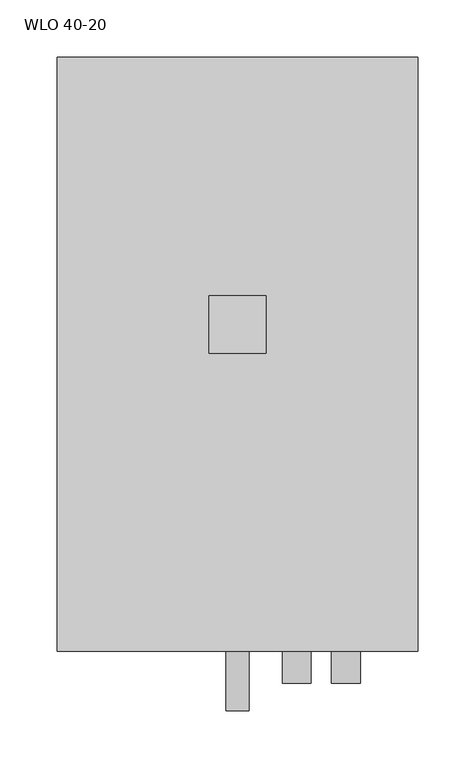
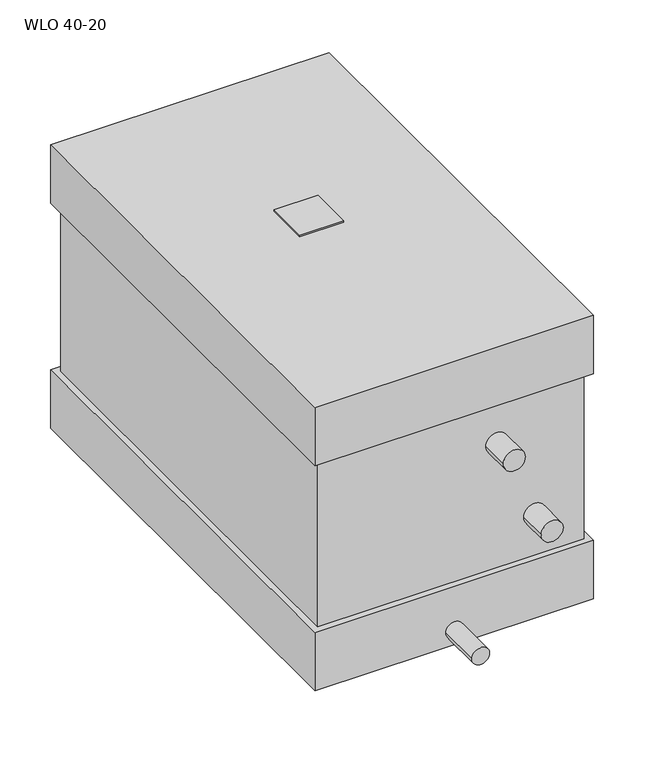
"""IFC4 building model written with IfcOpenShell, lengths in millimetres: proxy geometry, KORF_Воздухоохладитель_Водяной_WLO_Левый : WLO 40-20."""

from ifc_helpers import new_model, si_unit, point, frame, frame_2d, origin, place, context, project, spatial, polyline, circle_curve, trimmed, segment, composite_curve, outline, extrude, faceted_brep, source, transform, mapped, element, save


def wlo_40_20_65b91585(model_context):
    return source(origin(), model_context, "Body", "SolidModel", [
        extrude(outline(polyline([(133.0, -25.0), (133.0, 25.0), (183.0, 25.0), (183.0, -25.0), (133.0, -25.0)])), frame((0.0, 0.0, 170.0), z_axis=(0.0, 0.0, 1.0), x_axis=(1.0, 0.0, 0.0)), (0.0, 0.0, 1.0), 2.0),
        faceted_brep([(316.0, -286.0, 170.0), (316.0, -286.0, 100.0), (316.0, 234.0, 100.0), (316.0, 234.0, 170.0), (316.0, -286.0, -100.0), (316.0, -286.0, -170.0), (316.0, 234.0, -170.0), (316.0, 234.0, -100.0), (0.0, -286.0, 170.0), (0.0, 234.0, 170.0), (0.0, 234.0, 100.0), (0.0, -286.0, 100.0), (0.0, -286.0, -100.0), (0.0, 234.0, -100.0), (0.0, 234.0, -170.0), (0.0, -286.0, -170.0), (7.0, -279.0, 100.0), (309.0, -279.0, 100.0), (309.0, -200.0, 100.0), (309.0, 200.0, 100.0), (309.0, 227.0, 100.0), (7.0, 227.0, 100.0), (7.0, 200.0, 100.0), (7.0, -200.0, 100.0), (309.0, -279.0, -100.0), (7.0, -279.0, -100.0), (7.0, -200.0, -100.0), (7.0, 200.0, -100.0), (7.0, 227.0, -100.0), (309.0, 227.0, -100.0), (309.0, 200.0, -100.0), (309.0, -200.0, -100.0)], [[[0, 1, 2, 3]], [[4, 5, 6, 7]], [[8, 9, 10, 11]], [[12, 13, 14, 15]], [[1, 0, 8, 11]], [[2, 1, 11, 10], [16, 17, 18, 19, 20, 21, 22, 23]], [[3, 2, 10, 9]], [[0, 3, 9, 8]], [[5, 4, 12, 15]], [[6, 5, 15, 14]], [[7, 6, 14, 13]], [[4, 7, 13, 12], [24, 25, 26, 27, 28, 29, 30, 31]], [[17, 24, 31, 30, 29, 20, 19, 18]], [[21, 28, 27, 26, 25, 16, 23, 22]], [[24, 17, 16, 25]], [[20, 29, 28, 21]]]),
        extrude(outline(composite_curve([segment(trimmed(circle_curve(frame_2d((50.0, 210.0)), 12.5), [point((50.0, 197.5))], [point((50.0, 222.5))], False, "CARTESIAN"), True, "CONTINUOUS"), segment(trimmed(circle_curve(frame_2d((50.0, 210.0)), 12.5), [point((50.0, 222.5))], [point((50.0, 197.5))], False, "CARTESIAN"), True, "CONTINUOUS")], self_intersect=False)), frame((0.0, -314.0, 0.0), z_axis=(0.0, 1.0, 0.0), x_axis=(0.0, 0.0, 1.0)), (0.0, 0.0, 1.0), 35.0),
        extrude(outline(composite_curve([segment(trimmed(circle_curve(frame_2d((-50.0, 253.0)), 12.5), [point((-50.0, 240.5))], [point((-50.0, 265.5))], False, "CARTESIAN"), True, "CONTINUOUS"), segment(trimmed(circle_curve(frame_2d((-50.0, 253.0)), 12.5), [point((-50.0, 265.5))], [point((-50.0, 240.5))], False, "CARTESIAN"), True, "CONTINUOUS")], self_intersect=False)), frame((0.0, -314.0, 0.0), z_axis=(0.0, 1.0, 0.0), x_axis=(0.0, 0.0, 1.0)), (0.0, 0.0, 1.0), 35.0),
        extrude(outline(composite_curve([segment(trimmed(circle_curve(frame_2d((-152.0, 158.0)), 10.0), [point((-152.0, 148.0))], [point((-152.0, 168.0))], False, "CARTESIAN"), True, "CONTINUOUS"), segment(trimmed(circle_curve(frame_2d((-152.0, 158.0)), 10.0), [point((-152.0, 168.0))], [point((-152.0, 148.0))], False, "CARTESIAN"), True, "CONTINUOUS")], self_intersect=False)), frame((0.0, -338.0, 0.0), z_axis=(0.0, 1.0, 0.0), x_axis=(0.0, 0.0, 1.0)), (0.0, 0.0, 1.0), 52.0),
    ])


if __name__ == "__main__":
    model = new_model("IFC4")
    model_context = context("Model", 3, world=origin())
    ifc_project = project(units=[si_unit("LENGTHUNIT", "METRE", prefix="MILLI")], contexts=[model_context])
    site = spatial("IfcSite", under=ifc_project)
    building = spatial("IfcBuilding", under=site)
    placement = place(None, origin())
    wlo_40_20_shape = wlo_40_20_65b91585(model_context)
    element("IfcBuildingElementProxy", 1, Name="KORF_Воздухоохладитель_Водяной_WLO_Левый : WLO 40-20", ObjectType="KORF_Воздухоохладитель_Водяной_WLO_Левый : WLO 40-20", at=placement, inside=building, context=model_context, shape_type="MappedRepresentation", body=[
        mapped(wlo_40_20_shape, transform((0.0, 0.0, 0.0), x_axis=(1.0, 0.0, 0.0), y_axis=(0.0, 1.0, 0.0), z_axis=(0.0, 0.0, 1.0))),
    ])
    save(model, "model.ifc")
